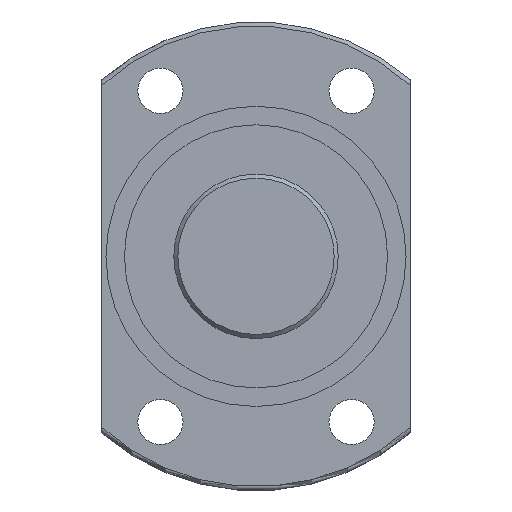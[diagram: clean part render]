
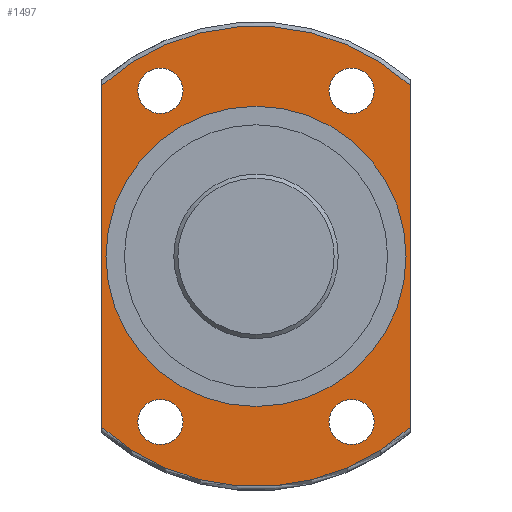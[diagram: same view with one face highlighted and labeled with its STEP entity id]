
A CAD part, left-side view. The second image highlights one B-rep face of the part: STEP entity #1497.
In plain terms, the highlighted planar face has unit normal (-1, 0, 0).
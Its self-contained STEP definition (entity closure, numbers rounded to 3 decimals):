
#65 = FACE_BOUND ( 'NONE', #911, .T. ) ;
#67 = EDGE_LOOP ( 'NONE', ( #765 ) ) ;
#86 = EDGE_CURVE ( 'NONE', #1264, #1264, #1419, .T. ) ;
#113 = CARTESIAN_POINT ( 'NONE',  ( 54.446, 13.697, 0. ) ) ;
#126 = VECTOR ( 'NONE', #1281, 1000. ) ;
#142 = AXIS2_PLACEMENT_3D ( 'NONE', #1481, #815, #1599 ) ;
#166 = VERTEX_POINT ( 'NONE', #176 ) ;
#176 = CARTESIAN_POINT ( 'NONE',  ( 54.446, 22.447, 40.27 ) ) ;
#193 = CARTESIAN_POINT ( 'NONE',  ( 54.446, 51.197, 0. ) ) ;
#199 = CARTESIAN_POINT ( 'NONE',  ( 54.446, 13.697, -41.59 ) ) ;
#205 = CARTESIAN_POINT ( 'NONE',  ( 54.446, 22.447, -40.27 ) ) ;
#210 = EDGE_CURVE ( 'NONE', #1570, #1570, #1254, .T. ) ;
#243 = CARTESIAN_POINT ( 'NONE',  ( 54.446, 13.697, 41.59 ) ) ;
#246 = ORIENTED_EDGE ( 'NONE', *, *, #1466, .F. ) ;
#250 = CIRCLE ( 'NONE', #1594, 56. ) ;
#252 = CARTESIAN_POINT ( 'NONE',  ( 54.446, 68.947, 40.27 ) ) ;
#259 = CARTESIAN_POINT ( 'NONE',  ( 54.446, 88.697, 0. ) ) ;
#263 = EDGE_CURVE ( 'NONE', #166, #166, #1444, .T. ) ;
#296 = DIRECTION ( 'NONE',  ( 0., -1., 0. ) ) ;
#317 = CIRCLE ( 'NONE', #1223, 56. ) ;
#325 = CARTESIAN_POINT ( 'NONE',  ( 54.446, 107.197, 0. ) ) ;
#357 = EDGE_LOOP ( 'NONE', ( #656 ) ) ;
#366 = VERTEX_POINT ( 'NONE', #243 ) ;
#371 = DIRECTION ( 'NONE',  ( 1., 0., 0. ) ) ;
#377 = VERTEX_POINT ( 'NONE', #1590 ) ;
#379 = CIRCLE ( 'NONE', #142, 5.5 ) ;
#425 = FACE_BOUND ( 'NONE', #1421, .T. ) ;
#446 = AXIS2_PLACEMENT_3D ( 'NONE', #981, #371, #481 ) ;
#469 = VERTEX_POINT ( 'NONE', #205 ) ;
#480 = LINE ( 'NONE', #259, #126 ) ;
#481 = DIRECTION ( 'NONE',  ( 0., -1., 0. ) ) ;
#506 = CARTESIAN_POINT ( 'NONE',  ( 54.446, 27.947, 40.27 ) ) ;
#510 = VERTEX_POINT ( 'NONE', #199 ) ;
#543 = CARTESIAN_POINT ( 'NONE',  ( 54.446, 74.447, 40.27 ) ) ;
#598 = EDGE_CURVE ( 'NONE', #377, #1109, #480, .T. ) ;
#623 = DIRECTION ( 'NONE',  ( 0., -1., 0. ) ) ;
#625 = EDGE_CURVE ( 'NONE', #510, #366, #1262, .T. ) ;
#649 = DIRECTION ( 'NONE',  ( 1., 0., 0. ) ) ;
#656 = ORIENTED_EDGE ( 'NONE', *, *, #210, .T. ) ;
#675 = EDGE_CURVE ( 'NONE', #1074, #1074, #988, .T. ) ;
#691 = FACE_BOUND ( 'NONE', #357, .T. ) ;
#736 = VECTOR ( 'NONE', #753, 1000. ) ;
#753 = DIRECTION ( 'NONE',  ( 0., 0., 1. ) ) ;
#754 = DIRECTION ( 'NONE',  ( -1., 0., 0. ) ) ;
#765 = ORIENTED_EDGE ( 'NONE', *, *, #1478, .F. ) ;
#792 = ORIENTED_EDGE ( 'NONE', *, *, #263, .F. ) ;
#796 = DIRECTION ( 'NONE',  ( 0., 1., 0. ) ) ;
#805 = DIRECTION ( 'NONE',  ( -1., 0., 0. ) ) ;
#810 = ORIENTED_EDGE ( 'NONE', *, *, #598, .F. ) ;
#815 = DIRECTION ( 'NONE',  ( -1., 0., 0. ) ) ;
#835 = ORIENTED_EDGE ( 'NONE', *, *, #86, .F. ) ;
#851 = CARTESIAN_POINT ( 'NONE',  ( 54.446, 68.947, -40.27 ) ) ;
#858 = ORIENTED_EDGE ( 'NONE', *, *, #625, .T. ) ;
#864 = AXIS2_PLACEMENT_3D ( 'NONE', #325, #805, #940 ) ;
#879 = EDGE_CURVE ( 'NONE', #1109, #366, #317, .T. ) ;
#899 = ORIENTED_EDGE ( 'NONE', *, *, #675, .F. ) ;
#911 = EDGE_LOOP ( 'NONE', ( #835 ) ) ;
#932 = FACE_OUTER_BOUND ( 'NONE', #1387, .T. ) ;
#940 = DIRECTION ( 'NONE',  ( 0., 1., 0. ) ) ;
#949 = FACE_BOUND ( 'NONE', #1541, .T. ) ;
#964 = DIRECTION ( 'NONE',  ( 1., 0., 0. ) ) ;
#981 = CARTESIAN_POINT ( 'NONE',  ( 54.446, 51.197, 0. ) ) ;
#988 = CIRCLE ( 'NONE', #1606, 5.5 ) ;
#1074 = VERTEX_POINT ( 'NONE', #252 ) ;
#1109 = VERTEX_POINT ( 'NONE', #1342 ) ;
#1114 = DIRECTION ( 'NONE',  ( -1., 0., 0. ) ) ;
#1194 = DIRECTION ( 'NONE',  ( 0., -1., 0. ) ) ;
#1223 = AXIS2_PLACEMENT_3D ( 'NONE', #1318, #649, #1309 ) ;
#1254 = CIRCLE ( 'NONE', #446, 36.5 ) ;
#1262 = LINE ( 'NONE', #113, #736 ) ;
#1264 = VERTEX_POINT ( 'NONE', #851 ) ;
#1281 = DIRECTION ( 'NONE',  ( 0., 0., 1. ) ) ;
#1302 = DIRECTION ( 'NONE',  ( -1., 0., 0. ) ) ;
#1309 = DIRECTION ( 'NONE',  ( 0., 1., 0. ) ) ;
#1314 = PLANE ( 'NONE',  #864 ) ;
#1318 = CARTESIAN_POINT ( 'NONE',  ( 54.446, 51.197, 0. ) ) ;
#1342 = CARTESIAN_POINT ( 'NONE',  ( 54.446, 88.697, 41.59 ) ) ;
#1365 = CARTESIAN_POINT ( 'NONE',  ( 54.446, 74.447, -40.27 ) ) ;
#1387 = EDGE_LOOP ( 'NONE', ( #810, #246, #858, #1568 ) ) ;
#1419 = CIRCLE ( 'NONE', #1472, 5.5 ) ;
#1421 = EDGE_LOOP ( 'NONE', ( #899 ) ) ;
#1444 = CIRCLE ( 'NONE', #1500, 5.5 ) ;
#1464 = FACE_BOUND ( 'NONE', #67, .T. ) ;
#1466 = EDGE_CURVE ( 'NONE', #510, #377, #250, .T. ) ;
#1472 = AXIS2_PLACEMENT_3D ( 'NONE', #1365, #1114, #296 ) ;
#1478 = EDGE_CURVE ( 'NONE', #469, #469, #379, .T. ) ;
#1481 = CARTESIAN_POINT ( 'NONE',  ( 54.446, 27.947, -40.27 ) ) ;
#1497 = ADVANCED_FACE ( 'NONE', ( #932, #425, #949, #1464, #65, #691 ), #1314, .T. ) ;
#1500 = AXIS2_PLACEMENT_3D ( 'NONE', #506, #754, #623 ) ;
#1541 = EDGE_LOOP ( 'NONE', ( #792 ) ) ;
#1568 = ORIENTED_EDGE ( 'NONE', *, *, #879, .F. ) ;
#1570 = VERTEX_POINT ( 'NONE', #1654 ) ;
#1590 = CARTESIAN_POINT ( 'NONE',  ( 54.446, 88.697, -41.59 ) ) ;
#1594 = AXIS2_PLACEMENT_3D ( 'NONE', #193, #964, #796 ) ;
#1599 = DIRECTION ( 'NONE',  ( 0., -1., 0. ) ) ;
#1606 = AXIS2_PLACEMENT_3D ( 'NONE', #543, #1302, #1194 ) ;
#1654 = CARTESIAN_POINT ( 'NONE',  ( 54.446, 14.697, 0. ) ) ;
